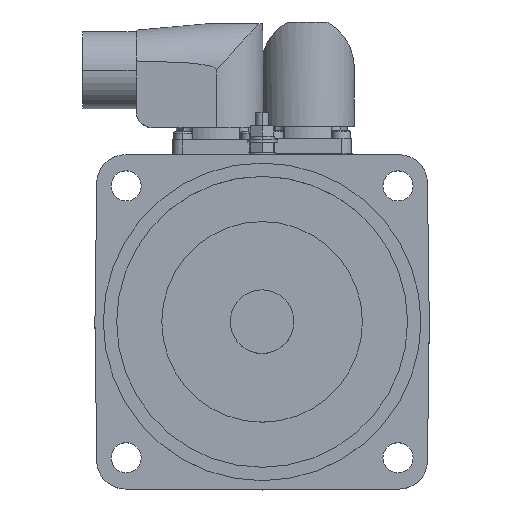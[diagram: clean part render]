
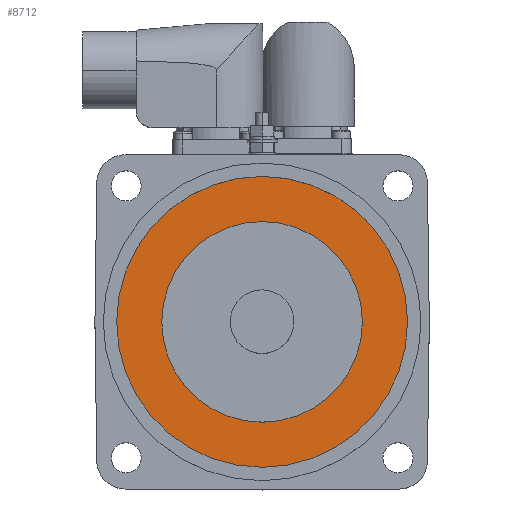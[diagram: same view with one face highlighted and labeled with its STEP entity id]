
A CAD part, top view. The second image highlights one B-rep face of the part: STEP entity #8712.
In plain terms, the highlighted planar face has unit normal (0, 0, 1).
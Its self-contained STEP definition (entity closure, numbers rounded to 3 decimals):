
#92 = EDGE_CURVE ( 'NONE', #14236, #14237, #12888, .T. ) ;
#214 = EDGE_CURVE ( 'NONE', #14232, #14233, #13056, .T. ) ;
#2699 = CARTESIAN_POINT ( 'NONE',  ( 30., 0., 8. ) ) ;
#2700 = CARTESIAN_POINT ( 'NONE',  ( -30., 0., 8. ) ) ;
#2703 = CARTESIAN_POINT ( 'NONE',  ( -43.5, 0., 8. ) ) ;
#2704 = CARTESIAN_POINT ( 'NONE',  ( 43.5, 0., 8. ) ) ;
#2785 = EDGE_CURVE ( 'NONE', #14237, #14236, #3233, .T. ) ;
#2787 = EDGE_CURVE ( 'NONE', #14233, #14232, #3236, .T. ) ;
#3233 = CIRCLE ( 'NONE', #11971, 43.5 ) ;
#3236 = CIRCLE ( 'NONE', #11973, 30. ) ;
#3884 = FACE_OUTER_BOUND ( 'NONE', #10363, .T. ) ;
#3889 = FACE_BOUND ( 'NONE', #10354, .T. ) ;
#4799 = CARTESIAN_POINT ( 'NONE',  ( 0., 0., 8. ) ) ;
#4800 = DIRECTION ( 'NONE',  ( 0., 0., 1. ) ) ;
#4801 = DIRECTION ( 'NONE',  ( 1., 0., 0. ) ) ;
#5926 = CARTESIAN_POINT ( 'NONE',  ( 0., 0., 8. ) ) ;
#5927 = DIRECTION ( 'NONE',  ( 0., 0., 1. ) ) ;
#5928 = DIRECTION ( 'NONE',  ( 1., 0., 0. ) ) ;
#6528 = CARTESIAN_POINT ( 'NONE',  ( 0., 43.5, 8. ) ) ;
#6529 = PLANE ( 'NONE',  #12347 ) ;
#6530 = DIRECTION ( 'NONE',  ( 0., 0., 1. ) ) ;
#6531 = DIRECTION ( 'NONE',  ( 1., 0., 0. ) ) ;
#6857 = DIRECTION ( 'NONE',  ( 0., 0., 1. ) ) ;
#6858 = DIRECTION ( 'NONE',  ( 1., 0., 0. ) ) ;
#8712 = ADVANCED_FACE ( 'NONE', ( #3884, #3889 ), #6529, .T. ) ;
#10141 = ORIENTED_EDGE ( 'NONE', *, *, #2785, .T. ) ;
#10142 = ORIENTED_EDGE ( 'NONE', *, *, #92, .T. ) ;
#10143 = ORIENTED_EDGE ( 'NONE', *, *, #214, .F. ) ;
#10144 = ORIENTED_EDGE ( 'NONE', *, *, #2787, .F. ) ;
#10354 = EDGE_LOOP ( 'NONE', ( #10143, #10144 ) ) ;
#10363 = EDGE_LOOP ( 'NONE', ( #10141, #10142 ) ) ;
#11721 = AXIS2_PLACEMENT_3D ( 'NONE', #5926, #5927, #5928 ) ;
#11783 = AXIS2_PLACEMENT_3D ( 'NONE', #4799, #4800, #4801 ) ;
#11971 = AXIS2_PLACEMENT_3D ( 'NONE', #14542, #14549, #14550 ) ;
#11973 = AXIS2_PLACEMENT_3D ( 'NONE', #14545, #6857, #6858 ) ;
#12347 = AXIS2_PLACEMENT_3D ( 'NONE', #6528, #6530, #6531 ) ;
#12888 = CIRCLE ( 'NONE', #11721, 43.5 ) ;
#13056 = CIRCLE ( 'NONE', #11783, 30. ) ;
#14232 = VERTEX_POINT ( 'NONE', #2699 ) ;
#14233 = VERTEX_POINT ( 'NONE', #2700 ) ;
#14236 = VERTEX_POINT ( 'NONE', #2703 ) ;
#14237 = VERTEX_POINT ( 'NONE', #2704 ) ;
#14542 = CARTESIAN_POINT ( 'NONE',  ( 0., 0., 8. ) ) ;
#14545 = CARTESIAN_POINT ( 'NONE',  ( 0., 0., 8. ) ) ;
#14549 = DIRECTION ( 'NONE',  ( 0., 0., 1. ) ) ;
#14550 = DIRECTION ( 'NONE',  ( 1., 0., 0. ) ) ;
